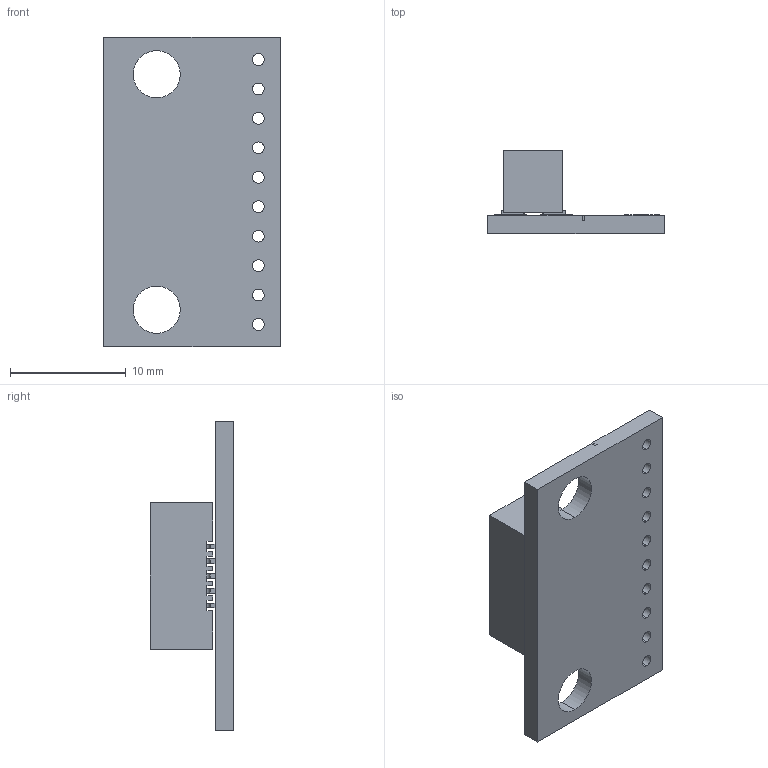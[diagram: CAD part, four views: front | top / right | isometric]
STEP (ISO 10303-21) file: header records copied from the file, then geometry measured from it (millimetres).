
FILE_DESCRIPTION (( 'STEP AP214' ), '1' );
FILE_NAME ('Gadgeteer_Breakout_Module_15-716679.STEP', '2017-08-16T18:55:06', ( 'ART' ), ( 'Microsoft' ), 'SwSTEP 2.0', 'SolidWorks 2015', '' );
FILE_SCHEMA (( 'AUTOMOTIVE_DESIGN' ));
Length unit declared in the file: inch
Products named in the file (1): Gadgeteer_Breakout_Module_15-716679
Bounding box: 15.24 x 7.21 x 26.67 mm (x, y, z)
Volume: 800.4 mm3; surface area: 2139.3 mm2
Topology: 65 solids, 65 shells, 1603 faces, 4174 edges, 2776 vertices
Faces by surface type: plane 1217, bspline 302, cylinder 84
Entity records: 86435 total; most frequent: CARTESIAN_POINT 27144, ORIENTED_EDGE 8348, DIRECTION 6362, EDGE_CURVE 4174, LINE 3382, VECTOR 3382, VERTEX_POINT 2776, EDGE_LOOP 1768
